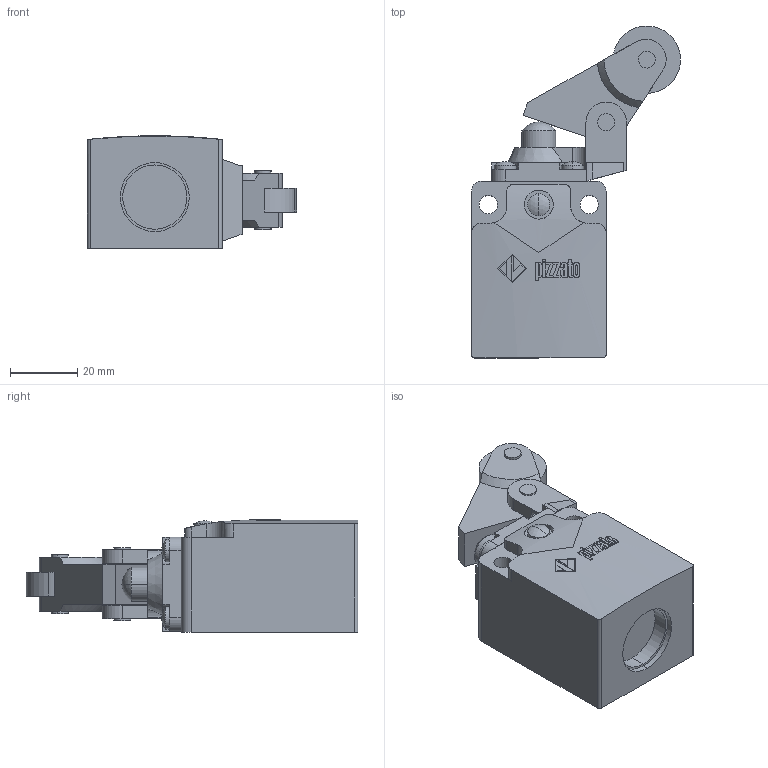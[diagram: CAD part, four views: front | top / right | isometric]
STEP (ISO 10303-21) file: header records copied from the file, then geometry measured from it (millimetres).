
FILE_DESCRIPTION (( 'STEP AP214' ), '1' );
FILE_NAME ('ZF_STEP_FC_x05.step', '2015-05-14T14:11:50', ( 'utente' ), ( 'Microsoft' ), 'SwSTEP 2.0', 'SolidWorks 2014', '' );
FILE_SCHEMA (( 'AUTOMOTIVE_DESIGN' ));
Length unit declared in the file: millimetre
Products named in the file (6): ZF_STEP_VF_T05; Pizzato_Pistoncino_T01; Pizzato_Leva_T05_351; Pizzato_Supporto_T02_Supporto_T02; Pizzato_Custodia_FC; ZF_STEP_FC_x05
Assembly tree (5 placements, depth 3):
  ZF_STEP_FC_x05
    Pizzato_Custodia_FC
    ZF_STEP_VF_T05
      Pizzato_Supporto_T02_Supporto_T02
      Pizzato_Leva_T05_351
      Pizzato_Pistoncino_T01
Bounding box: 62.1 x 98.6 x 33.4 mm (x, y, z)
Volume: 83681.7 mm3; surface area: 21230.8 mm2
Topology: 4 solids, 4 shells, 433 faces, 1135 edges, 755 vertices
Faces by surface type: plane 244, bspline 97, cylinder 77, sphere 12, cone 3
Entity records: 18565 total; most frequent: CARTESIAN_POINT 8226, ORIENTED_EDGE 2270, DIRECTION 1772, EDGE_CURVE 1135, VERTEX_POINT 755, LINE 684, VECTOR 684, AXIS2_PLACEMENT_3D 544
